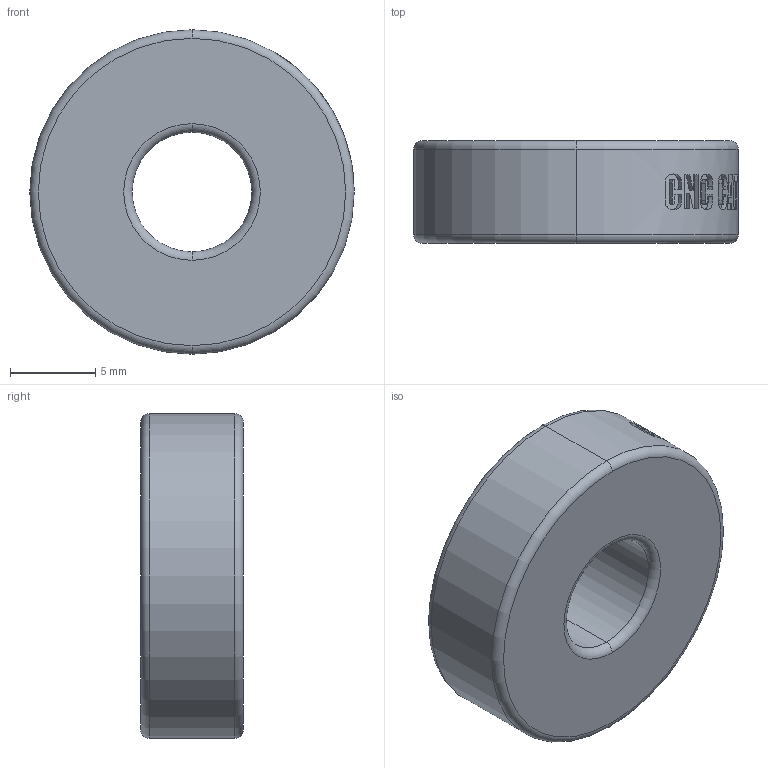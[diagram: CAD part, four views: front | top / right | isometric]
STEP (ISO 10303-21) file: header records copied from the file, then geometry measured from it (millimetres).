
FILE_DESCRIPTION (( 'STEP AP203' ), '1' );
FILE_NAME ('7X19X6.STEP', '2017-08-13T07:40:52', ( '' ), ( '' ), 'SwSTEP 2.0', 'SolidWorks 2014', '' );
FILE_SCHEMA (( 'CONFIG_CONTROL_DESIGN' ));
Length unit declared in the file: millimetre
Products named in the file (1): 7X19X6
Bounding box: 19 x 6 x 19 mm (x, y, z)
Volume: 1458.1 mm3; surface area: 960.2 mm2
Topology: 1 solids, 1 shells, 98 faces, 259 edges, 170 vertices
Faces by surface type: plane 47, bspline 32, cylinder 11, torus 8
Entity records: 6640 total; most frequent: CARTESIAN_POINT 4392, ORIENTED_EDGE 518, DIRECTION 340, EDGE_CURVE 259, VERTEX_POINT 170, AXIS2_PLACEMENT_3D 129, B_SPLINE_CURVE_WITH_KNOTS 115, EDGE_LOOP 107
